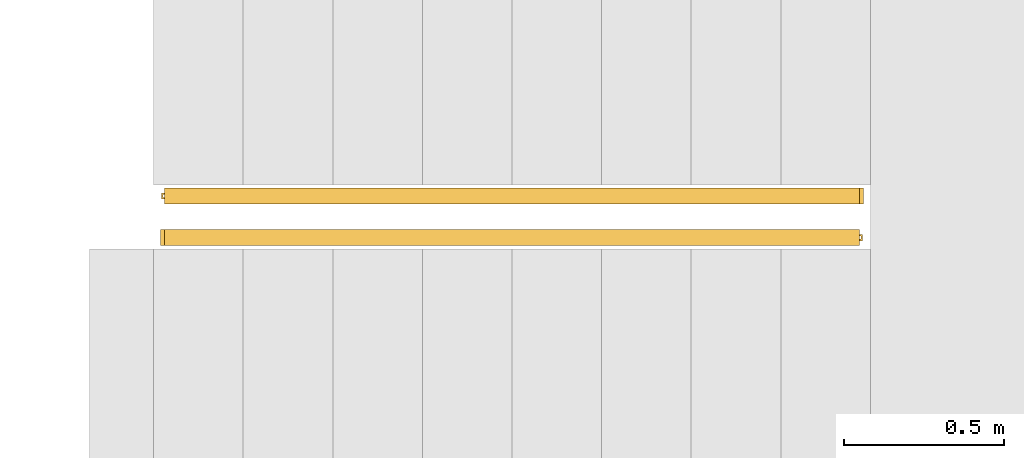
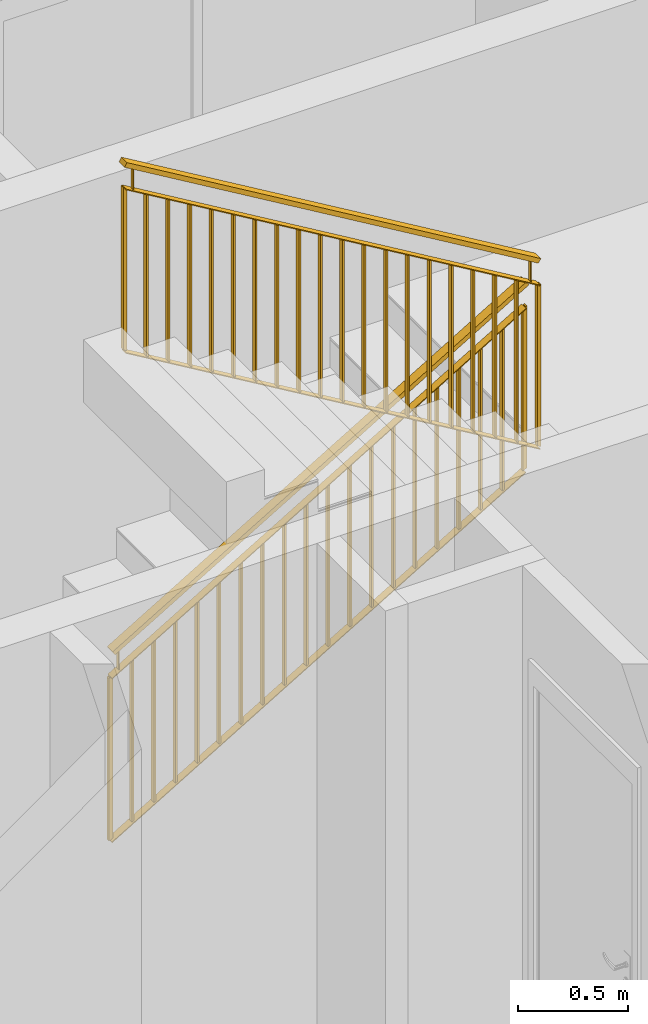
# One storey, part 5 of 64: 2 railings.
"""IFC2X3 building model written with IfcOpenShell, lengths in millimetres."""

import ifcopenshell
import ifcopenshell.guid

model = None  # the IFC model being written
_history = None  # IfcOwnerHistory: only IFC2X3 demands one
_inside = {}  # id of a spatial element -> (the spatial element, [elements in it])
_under = {}  # id of a project, library or spatial element -> (it, [spatial elements below it])
_declared = {}  # id of a project -> (the project, [libraries it declares])
_typed = {}  # id of a type object -> (the type object, [elements of that type])
_made_of = {}  # id of a material, layer set ... -> (it, [elements and type objects made of it])


def new_model(schema):
    """Start an empty IFC model of exactly this schema.

    Asked for "IFC4X3", IfcOpenShell would pick the latest addendum, in which some entities
    have other attributes; the version numbers below select the first issue.
    IFC2X3 requires an IfcOwnerHistory on every rooted entity: one is made here for all.
    """
    global model, _history
    if schema == "IFC4X3":
        model = ifcopenshell.file(schema_version=(4, 3, 0, 0))
    else:
        model = ifcopenshell.file(schema=schema)
    _inside.clear()
    _under.clear()
    _declared.clear()
    _typed.clear()
    _made_of.clear()
    _history = None
    if model.schema == "IFC2X3":
        org = make("IfcOrganization", Name="unknown")
        user = make(
            "IfcPersonAndOrganization",
            ThePerson=make("IfcPerson", FamilyName="unknown"),
            TheOrganization=org,
        )
        app = make(
            "IfcApplication",
            ApplicationDeveloper=org,
            Version="unknown",
            ApplicationFullName="unknown",
            ApplicationIdentifier="unknown",
        )
        _history = make(
            "IfcOwnerHistory",
            OwningUser=user,
            OwningApplication=app,
            ChangeAction="ADDED",
            CreationDate=0,
        )
    return model


def make(cls, **values):
    """One entity of the class cls with the attributes given. An attribute that is None is left unset."""
    return model.create_entity(
        cls, **{name: value for name, value in values.items() if value is not None}
    )


def entity(cls, *values):
    """Any entity or typed value of the class cls, its attributes in the order of the schema. None: left unset."""
    e = model.create_entity(cls)
    for i, value in enumerate(values):
        if value is not None:
            e[i] = value
    return e


def rooted(cls, **values):
    """An entity with a GlobalId (a new one), such as an element, a storey or a relation."""
    return make(cls, GlobalId=ifcopenshell.guid.new(), OwnerHistory=_history, **values)


def si_unit(unit_type, name, prefix=None):
    """IfcSIUnit, for example si_unit("LENGTHUNIT", "METRE", prefix="MILLI")."""
    return make("IfcSIUnit", UnitType=unit_type, Prefix=prefix, Name=name)


def converted_unit(unit_type, name, factor, base, dimensions=None, offset=None):
    """IfcConversionBasedUnit, such as the inch: factor (a typed value) times the base unit."""
    return make(
        "IfcConversionBasedUnit"
        if offset is None
        else "IfcConversionBasedUnitWithOffset",
        ConversionOffset=offset,
        Dimensions=None
        if dimensions is None
        else entity("IfcDimensionalExponents", *dimensions),
        UnitType=unit_type,
        Name=name,
        ConversionFactor=make(
            "IfcMeasureWithUnit", ValueComponent=factor, UnitComponent=base
        ),
    )


def derived_unit(unit_type, elements):
    """IfcDerivedUnit: a product of units, each with its exponent."""
    return make(
        "IfcDerivedUnit",
        Elements=[
            make("IfcDerivedUnitElement", Unit=unit, Exponent=power)
            for unit, power in elements
        ],
        UnitType=unit_type,
    )


def money_unit(currency):
    """IfcMonetaryUnit."""
    return make("IfcMonetaryUnit", Currency=currency)


def assignment(units):
    """IfcUnitAssignment: the units of a project."""
    return None if units is None else make("IfcUnitAssignment", Units=units)


def point(xyz):
    """IfcCartesianPoint."""
    return None if xyz is None else make("IfcCartesianPoint", Coordinates=xyz)


def direction(xyz):
    """IfcDirection."""
    return None if xyz is None else make("IfcDirection", DirectionRatios=xyz)


def frame(location, z_axis=None, x_axis=None):
    """IfcAxis2Placement3D, a coordinate frame: its origin and axes. An axis left out is left unset."""
    return make(
        "IfcAxis2Placement3D",
        Location=point(location),
        Axis=direction(z_axis),
        RefDirection=direction(x_axis),
    )


def origin_with_axes():
    """The frame at (0, 0, 0) with the z axis (0, 0, 1) and the x axis (1, 0, 0) written out."""
    return frame((0.0, 0.0, 0.0), z_axis=(0.0, 0.0, 1.0), x_axis=(1.0, 0.0, 0.0))


def place(relative_to, where):
    """IfcLocalPlacement: puts the frame where relative to a parent placement (None: the world)."""
    return make(
        "IfcLocalPlacement", PlacementRelTo=relative_to, RelativePlacement=where
    )


def context(
    kind, dimensions, precision=None, world=None, true_north=None, identifier=None
):
    """IfcGeometricRepresentationContext, for example the 3D "Model" context."""
    return make(
        "IfcGeometricRepresentationContext",
        ContextIdentifier=identifier,
        ContextType=kind,
        CoordinateSpaceDimension=dimensions,
        Precision=precision,
        WorldCoordinateSystem=world,
        TrueNorth=true_north,
    )


def subcontext(parent, identifier, kind, view, scale=None):
    """IfcGeometricRepresentationSubContext, for example "Body" below "Model"."""
    return make(
        "IfcGeometricRepresentationSubContext",
        ContextIdentifier=identifier,
        ContextType=kind,
        ParentContext=parent,
        TargetScale=scale,
        TargetView=view,
    )


def project(units=None, contexts=None):
    """IfcProject with its units and contexts."""
    return rooted(
        "IfcProject",
        Name="project",
        RepresentationContexts=contexts,
        UnitsInContext=assignment(units),
    )


def spatial(cls, under=None, at=None, **own):
    """A site, building, storey or space (cls), placed at a placement, below another one or the project."""
    s = rooted(cls, ObjectPlacement=at, **own)
    if under is not None:
        _under.setdefault(under.id(), (under, []))[1].append(s)
    return s


def faces_of(points, faces, orient=None, outer=None):
    """IfcFace entities. A face is a list of loops; a loop is a list of indices into points, from 0.

    orient and outer hold one flag for each loop. By default every Orientation is true, the
    first loop of a face is its IfcFaceOuterBound and the others are IfcFaceBound.
    """
    made = []
    for i, loops in enumerate(faces):
        bounds = []
        for j, loop in enumerate(loops):
            is_outer = j == 0 if outer is None else outer[i][j]
            bounds.append(
                make(
                    "IfcFaceOuterBound" if is_outer else "IfcFaceBound",
                    Bound=make("IfcPolyLoop", Polygon=[points[k] for k in loop]),
                    Orientation=True if orient is None else orient[i][j],
                )
            )
        made.append(make("IfcFace", Bounds=bounds))
    return made


def faceted_brep(points, faces, orient=None, outer=None, voids=None):
    """IfcFacetedBrep: a solid bounded by flat faces; with voids (closed shells), ...WithVoids."""
    shared = [point(p) for p in points]
    hull = make("IfcClosedShell", CfsFaces=faces_of(shared, faces, orient, outer))
    if voids is None:
        return make("IfcFacetedBrep", Outer=hull)
    return make(
        "IfcFacetedBrepWithVoids",
        Outer=hull,
        Voids=[
            make(cls, CfsFaces=faces_of(shared, fs, o, b)) for cls, fs, o, b in voids
        ],
    )


def shape(context_of_items, identifier, shape_type, items):
    """IfcShapeRepresentation: the items that make up one representation, for example the "Body"."""
    return make(
        "IfcShapeRepresentation",
        ContextOfItems=context_of_items,
        RepresentationIdentifier=identifier,
        RepresentationType=shape_type,
        Items=items,
    )


def material(Name=None, Category=None):
    """IfcMaterial."""
    return make("IfcMaterial", Name=Name, Category=Category)


def material_list(materials):
    """IfcMaterialList."""
    return make("IfcMaterialList", Materials=materials)


def made_of(thing, what):
    """Note that an element or type object is made of a material, layer set ...; save() writes the relation."""
    if what is not None:
        _made_of.setdefault(what.id(), (what, []))[1].append(thing)
    return thing


def type_object(cls, material=None, **own):
    """A type object (cls), such as IfcWallType, which elements share."""
    return made_of(rooted(cls, **own), material)


def element(
    cls,
    number,
    at=None,
    inside=None,
    cuts=None,
    type_object=None,
    material=None,
    context=None,
    identifier="Body",
    shape_type=None,
    held_by="IfcProductDefinitionShape",
    body=None,
    shapes=None,
    **own,
):
    """One element of the class cls, such as IfcWall. Its Tag is "e" and its number.

    at: its placement. inside: the storey or other place that contains it. cuts: it is an
    opening in that element (IfcRelVoidsElement). A single representation is given by context,
    identifier, shape_type and body (its items); several are given by shapes. held_by: the class
    of the entity that holds the representations. save() writes the other relations.
    """
    e = rooted(cls, Tag="e%d" % number, ObjectPlacement=at, **own)
    if body is not None:
        shapes = [shape(context, identifier, shape_type, body)]
    if shapes is not None:
        e.Representation = make(held_by, Representations=shapes)
    if inside is not None:
        _inside.setdefault(inside.id(), (inside, []))[1].append(e)
    if cuts is not None:
        rooted(
            "IfcRelVoidsElement", RelatingBuildingElement=cuts, RelatedOpeningElement=e
        )
    if type_object is not None:
        _typed.setdefault(type_object.id(), (type_object, []))[1].append(e)
    return made_of(e, material)


def aggregate(whole, parts):
    """IfcRelAggregates: a whole, such as a stair, and the parts it consists of."""
    return rooted("IfcRelAggregates", RelatingObject=whole, RelatedObjects=parts)


def save(model, path):
    """Write the relations noted so far, then the file.

    IfcRelAggregates (storeys below a building ...), IfcRelContainedInSpatialStructure (elements
    in a storey), IfcRelDefinesByType, IfcRelAssociatesMaterial and IfcRelDeclares: one each for
    every whole, place, type object, material and project.
    """
    for whole, parts in _under.values():
        aggregate(whole, parts)
    for where, things in _inside.values():
        rooted(
            "IfcRelContainedInSpatialStructure",
            RelatedElements=things,
            RelatingStructure=where,
        )
    for kind, things in _typed.values():
        rooted("IfcRelDefinesByType", RelatedObjects=things, RelatingType=kind)
    for what, things in _made_of.values():
        rooted("IfcRelAssociatesMaterial", RelatedObjects=things, RelatingMaterial=what)
    for by, libraries in _declared.values():
        rooted("IfcRelDeclares", RelatingContext=by, RelatedDefinitions=libraries)
    model.write(path)


model = new_model("IFC2X3")

# Units and contexts
model_context = context("Model", 3, precision=0.01, world=origin_with_axes(), true_north=direction((0.34421633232, 0.938890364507)))
body_context = subcontext(model_context, "Body", "Model", "MODEL_VIEW")
ifc_project = project(units=[si_unit("LENGTHUNIT", "METRE", prefix="MILLI"), si_unit("AREAUNIT", "SQUARE_METRE"), si_unit("VOLUMEUNIT", "CUBIC_METRE"), converted_unit("PLANEANGLEUNIT", "DEGREE", entity("IfcPlaneAngleMeasure", 0.0174532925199), si_unit("PLANEANGLEUNIT", "RADIAN"), dimensions=[0, 0, 0, 0, 0, 0, 0]), si_unit("SOLIDANGLEUNIT", "STERADIAN"), money_unit("USD"), converted_unit("TIMEUNIT", "Year", entity("IfcTimeMeasure", 31556926.0), si_unit("TIMEUNIT", "SECOND"), dimensions=[0, 0, 1, 0, 0, 0, 0]), si_unit("MASSUNIT", "GRAM", prefix="KILO"), si_unit("THERMODYNAMICTEMPERATUREUNIT", "DEGREE_CELSIUS"), si_unit("LUMINOUSINTENSITYUNIT", "LUMEN"), si_unit("ENERGYUNIT", "JOULE", prefix="MEGA"), derived_unit("THERMALCONDUCTANCEUNIT", [(si_unit("POWERUNIT", "WATT"), 1), (si_unit("LENGTHUNIT", "METRE"), -1), (si_unit("THERMODYNAMICTEMPERATUREUNIT", "KELVIN"), -1)]), derived_unit("SPECIFICHEATCAPACITYUNIT", [(si_unit("ENERGYUNIT", "JOULE"), 1), (si_unit("MASSUNIT", "GRAM", prefix="KILO"), -1), (si_unit("THERMODYNAMICTEMPERATUREUNIT", "KELVIN"), -1)]), derived_unit("MASSDENSITYUNIT", [(si_unit("MASSUNIT", "GRAM", prefix="KILO"), 1), (si_unit("VOLUMEUNIT", "CUBIC_METRE"), -1)])], contexts=[model_context])

# Site, building, storey
site_placement = place(None, origin_with_axes())
site = spatial("IfcSite", under=ifc_project, at=site_placement, Name="USTRONIE MORSKIE", CompositionType="ELEMENT")
building_placement = place(site_placement, origin_with_axes())
building = spatial("IfcBuilding", under=site, at=building_placement, Name="Budynek", CompositionType="ELEMENT")
storey_placement = place(building_placement, frame((0.0, 0.0, 7000.0), z_axis=(0.0, 0.0, 1.0), x_axis=(1.0, 0.0, 0.0)))
storey = spatial("IfcBuildingStorey", under=building, at=storey_placement, Name="PIĘTRO 2", CompositionType="ELEMENT", Elevation=7000.0)

# Railings
ifc_material_1 = material(Name="Stal konstrukcyjna")
ifc_material_2 = material(Name="Stal nierdzewna")
ifc_material_list = material_list([ifc_material_1, ifc_material_1, ifc_material_2, ifc_material_2, ifc_material_2, ifc_material_1, ifc_material_1, ifc_material_1, ifc_material_1, ifc_material_1, ifc_material_1, ifc_material_1, ifc_material_1, ifc_material_1, ifc_material_1, ifc_material_1, ifc_material_1, ifc_material_1, ifc_material_1, ifc_material_1, ifc_material_1, ifc_material_1, ifc_material_1])
railing_type = type_object("IfcRailingType", Name="Typ balustrady", PredefinedType="NOTDEFINED")
railing_1_placement = place(storey_placement, frame((392357.920919, 731401.199036, 187.126021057), z_axis=(0.0, 0.0, 1.0), x_axis=(1.0, 0.0, 0.0)))
element("IfcRailing", 1, at=railing_1_placement, inside=storey, type_object=railing_type, material=ifc_material_list, Name="BL1", PredefinedType="NOTDEFINED", context=body_context, shape_type="Brep", body=[
    faceted_brep([(44.3717153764, -45.0, -144.047619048), (44.3717153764, -25.0, -144.047619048), (44.3717153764, -25.0, 755.952380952), (44.3717153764, -45.0, 755.952380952), (24.3717153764, -45.0, -155.952380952), (24.3717153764, -25.0, -155.952380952), (39.3717153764, -40.0, -147.023809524), (39.3717153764, -30.0, -147.023809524), (29.3717153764, -30.0, -152.976190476), (29.3717153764, -40.0, -152.976190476), (24.3717153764, -25.0, 744.047619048), (24.3717153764, -45.0, 744.047619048), (39.3717153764, -40.0, 752.976190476), (29.3717153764, -40.0, 747.023809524), (29.3717153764, -30.0, 747.023809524), (39.3717153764, -30.0, 752.976190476)], [[[0, 1, 2, 3]], [[0, 4, 5, 1], [6, 7, 8, 9]], [[1, 5, 10, 2]], [[3, 2, 10, 11], [12, 13, 14, 15]], [[4, 0, 3, 11]], [[5, 4, 11, 10]], [[7, 6, 12, 15]], [[8, 7, 15, 14]], [[9, 8, 14, 13]], [[6, 9, 13, 12]]]),
    faceted_brep([(2215.62828462, -45.0, 1148.3670055), (2215.62828462, -25.0, 1148.3670055), (2215.62828462, -25.0, 2048.3670055), (2215.62828462, -45.0, 2048.3670055), (2195.62828462, -45.0, 1136.4622436), (2195.62828462, -25.0, 1136.4622436), (2210.62828462, -40.0, 1145.39081503), (2210.62828462, -30.0, 1145.39081503), (2200.62828462, -30.0, 1139.43843408), (2200.62828462, -40.0, 1139.43843408), (2195.62828462, -25.0, 2036.4622436), (2195.62828462, -45.0, 2036.4622436), (2210.62828462, -40.0, 2045.39081503), (2200.62828462, -40.0, 2039.43843408), (2200.62828462, -30.0, 2039.43843408), (2210.62828462, -30.0, 2045.39081503)], [[[0, 1, 2, 3]], [[0, 4, 5, 1], [6, 7, 8, 9]], [[1, 5, 10, 2]], [[3, 2, 10, 11], [12, 13, 14, 15]], [[4, 0, 3, 11]], [[5, 4, 11, 10]], [[7, 6, 12, 15]], [[8, 7, 15, 14]], [[9, 8, 14, 13]], [[6, 9, 13, 12]]]),
    faceted_brep([(34.3717153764, -59.9999999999, 900.0), (47.1588118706, -59.9999999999, 878.51767789), (2218.41538112, -59.9999999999, 2170.93230244), (2205.62828462, -59.9999999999, 2192.41462455), (34.3717153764, -9.99999999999, 900.0), (47.1588118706, -9.99999999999, 878.51767789), (47.1588118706, -25.0, 878.51767789), (44.6013925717, -25.0, 882.814142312), (44.6013925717, -45.0, 882.814142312), (47.1588118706, -45.0, 878.51767789), (2218.41538112, -45.0, 2170.93230244), (2215.85796182, -45.0, 2175.22876686), (2215.85796182, -25.0, 2175.22876686), (2218.41538112, -25.0, 2170.93230244), (2218.41538112, -9.99999999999, 2170.93230244), (2205.62828462, -9.99999999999, 2192.41462455)], [[[0, 1, 2, 3]], [[0, 4, 5, 6, 7, 8, 9, 1]], [[1, 9, 10, 2]], [[3, 2, 10, 11, 12, 13, 14, 15]], [[4, 0, 3, 15]], [[5, 4, 15, 14]], [[6, 5, 14, 13]], [[7, 6, 13, 12]], [[8, 7, 12, 11]], [[9, 8, 11, 10]]]),
    faceted_brep([(47.1588118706, -45.0, 878.51767789), (47.1588118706, -25.0, 878.51767789), (2218.41538112, -25.0, 2170.93230244), (2218.41538112, -45.0, 2170.93230244), (44.6013925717, -45.0, 882.814142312), (44.6013925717, -25.0, 882.814142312), (2215.85796182, -25.0, 2175.22876686), (2215.85796182, -45.0, 2175.22876686)], [[[0, 1, 2, 3]], [[0, 4, 5, 1]], [[1, 5, 6, 2]], [[3, 2, 6, 7]], [[4, 0, 3, 7]], [[5, 4, 7, 6]]]),
    faceted_brep([(79.8363595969, -45.0, 776.480503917), (79.8363595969, -25.0, 776.480503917), (79.8363595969, -25.0, 897.968599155), (79.8363595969, -45.0, 897.968599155), (74.8363595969, -45.0, 776.480503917), (74.8363595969, -25.0, 776.480503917), (74.8363595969, -25.0, 896.480503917), (77.3363595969, -25.0, 897.968599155), (77.3363595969, -45.0, 897.968599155), (74.8363595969, -45.0, 896.480503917)], [[[0, 1, 2, 3]], [[0, 4, 5, 1]], [[1, 5, 6, 7, 2]], [[3, 2, 7, 8]], [[4, 0, 3, 8, 9]], [[5, 4, 9, 6]], [[7, 6, 9, 8]]]),
    faceted_brep([(2165.1636404, -45.0, 2017.74674249), (2165.1636404, -25.0, 2017.74674249), (2165.1636404, -25.0, 2139.23483773), (2165.1636404, -45.0, 2139.23483773), (2160.1636404, -45.0, 2017.74674249), (2160.1636404, -25.0, 2017.74674249), (2160.1636404, -25.0, 2137.74674249), (2162.6636404, -25.0, 2139.23483773), (2162.6636404, -45.0, 2139.23483773), (2160.1636404, -45.0, 2137.74674249)], [[[0, 1, 2, 3]], [[0, 4, 5, 1]], [[1, 5, 6, 7, 2]], [[3, 2, 7, 8]], [[4, 0, 3, 8, 9]], [[5, 4, 9, 6]], [[7, 6, 9, 8]]]),
    faceted_brep([(34.3717153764, -54.9999999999, 750.0), (36.9291346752, -54.9999999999, 745.703535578), (2208.18570392, -54.9999999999, 2038.11816013), (2205.62828462, -54.9999999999, 2042.41462455), (34.3717153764, -15.0, 750.0), (36.9291346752, -15.0, 745.703535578), (2208.18570392, -15.0, 2038.11816013), (2205.62828462, -15.0, 2042.41462455)], [[[0, 1, 2, 3]], [[0, 4, 5, 1]], [[1, 5, 6, 2]], [[3, 2, 6, 7]], [[4, 0, 3, 7]], [[5, 4, 7, 6]]]),
    faceted_brep([(33.093005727, -54.9999999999, -157.851767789), (35.6504250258, -54.9999999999, -162.148232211), (2206.90699427, -54.9999999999, 1130.26639234), (2204.34957497, -54.9999999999, 1134.56285676), (33.093005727, -15.0, -157.851767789), (35.6504250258, -15.0, -162.148232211), (2206.90699427, -15.0, 1130.26639234), (2204.34957497, -15.0, 1134.56285676)], [[[0, 1, 2, 3]], [[0, 4, 5, 1]], [[1, 5, 6, 2]], [[3, 2, 6, 7]], [[4, 0, 3, 7]], [[5, 4, 7, 6]]]),
    faceted_brep([(153.648376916, -47.5, -84.001987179), (153.648376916, -22.4999999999, -84.001987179), (153.648376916, -22.4999999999, 815.998012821), (153.648376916, -47.5, 815.998012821), (143.648376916, -47.5, -89.9543681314), (143.648376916, -22.4999999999, -89.9543681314), (143.648376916, -22.4999999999, 810.045631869), (143.648376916, -47.5, 810.045631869)], [[[0, 1, 2, 3]], [[0, 4, 5, 1]], [[1, 5, 6, 2]], [[3, 2, 6, 7]], [[4, 0, 3, 7]], [[5, 4, 7, 6]]]),
    faceted_brep([(267.925038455, -47.5, -15.9801648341), (267.925038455, -22.4999999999, -15.9801648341), (267.925038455, -22.4999999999, 884.019835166), (267.925038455, -47.5, 884.019835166), (257.925038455, -47.5, -21.9325457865), (257.925038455, -22.4999999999, -21.9325457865), (257.925038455, -22.4999999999, 878.067454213), (257.925038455, -47.5, 878.067454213)], [[[0, 1, 2, 3]], [[0, 4, 5, 1]], [[1, 5, 6, 2]], [[3, 2, 6, 7]], [[4, 0, 3, 7]], [[5, 4, 7, 6]]]),
    faceted_brep([(382.201699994, -47.5, 52.0416575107), (382.201699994, -22.4999999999, 52.0416575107), (382.201699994, -22.4999999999, 952.041657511), (382.201699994, -47.5, 952.041657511), (372.201699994, -47.5, 46.0892765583), (372.201699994, -22.4999999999, 46.0892765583), (372.201699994, -22.4999999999, 946.089276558), (372.201699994, -47.5, 946.089276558)], [[[0, 1, 2, 3]], [[0, 4, 5, 1]], [[1, 5, 6, 2]], [[3, 2, 6, 7]], [[4, 0, 3, 7]], [[5, 4, 7, 6]]]),
    faceted_brep([(496.478361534, -47.5, 120.063479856), (496.478361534, -22.4999999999, 120.063479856), (496.478361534, -22.4999999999, 1020.06347986), (496.478361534, -47.5, 1020.06347986), (486.478361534, -47.5, 114.111098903), (486.478361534, -22.4999999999, 114.111098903), (486.478361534, -22.4999999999, 1014.1110989), (486.478361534, -47.5, 1014.1110989)], [[[0, 1, 2, 3]], [[0, 4, 5, 1]], [[1, 5, 6, 2]], [[3, 2, 6, 7]], [[4, 0, 3, 7]], [[5, 4, 7, 6]]]),
    faceted_brep([(610.755023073, -47.5, 188.0853022), (610.755023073, -22.4999999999, 188.0853022), (610.755023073, -22.4999999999, 1088.0853022), (610.755023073, -47.5, 1088.0853022), (600.755023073, -47.5, 182.132921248), (600.755023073, -22.4999999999, 182.132921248), (600.755023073, -22.4999999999, 1082.13292125), (600.755023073, -47.5, 1082.13292125)], [[[0, 1, 2, 3]], [[0, 4, 5, 1]], [[1, 5, 6, 2]], [[3, 2, 6, 7]], [[4, 0, 3, 7]], [[5, 4, 7, 6]]]),
    faceted_brep([(725.031684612, -47.5, 256.107124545), (725.031684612, -22.4999999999, 256.107124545), (725.031684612, -22.4999999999, 1156.10712455), (725.031684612, -47.5, 1156.10712455), (715.031684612, -47.5, 250.154743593), (715.031684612, -22.4999999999, 250.154743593), (715.031684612, -22.4999999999, 1150.15474359), (715.031684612, -47.5, 1150.15474359)], [[[0, 1, 2, 3]], [[0, 4, 5, 1]], [[1, 5, 6, 2]], [[3, 2, 6, 7]], [[4, 0, 3, 7]], [[5, 4, 7, 6]]]),
    faceted_brep([(839.308346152, -47.5, 324.12894689), (839.308346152, -22.4999999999, 324.12894689), (839.308346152, -22.4999999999, 1224.12894689), (839.308346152, -47.5, 1224.12894689), (829.308346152, -47.5, 318.176565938), (829.308346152, -22.4999999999, 318.176565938), (829.308346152, -22.4999999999, 1218.17656594), (829.308346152, -47.5, 1218.17656594)], [[[0, 1, 2, 3]], [[0, 4, 5, 1]], [[1, 5, 6, 2]], [[3, 2, 6, 7]], [[4, 0, 3, 7]], [[5, 4, 7, 6]]]),
    faceted_brep([(953.585007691, -47.5, 392.150769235), (953.585007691, -22.4999999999, 392.150769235), (953.585007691, -22.4999999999, 1292.15076923), (953.585007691, -47.5, 1292.15076923), (943.585007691, -47.5, 386.198388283), (943.585007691, -22.4999999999, 386.198388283), (943.585007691, -22.4999999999, 1286.19838828), (943.585007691, -47.5, 1286.19838828)], [[[0, 1, 2, 3]], [[0, 4, 5, 1]], [[1, 5, 6, 2]], [[3, 2, 6, 7]], [[4, 0, 3, 7]], [[5, 4, 7, 6]]]),
    faceted_brep([(1067.86166923, -47.5, 460.17259158), (1067.86166923, -22.4999999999, 460.17259158), (1067.86166923, -22.4999999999, 1360.17259158), (1067.86166923, -47.5, 1360.17259158), (1057.86166923, -47.5, 454.220210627), (1057.86166923, -22.4999999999, 454.220210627), (1057.86166923, -22.4999999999, 1354.22021063), (1057.86166923, -47.5, 1354.22021063)], [[[0, 1, 2, 3]], [[0, 4, 5, 1]], [[1, 5, 6, 2]], [[3, 2, 6, 7]], [[4, 0, 3, 7]], [[5, 4, 7, 6]]]),
    faceted_brep([(1182.13833077, -47.5, 528.194413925), (1182.13833077, -22.4999999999, 528.194413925), (1182.13833077, -22.4999999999, 1428.19441392), (1182.13833077, -47.5, 1428.19441392), (1172.13833077, -47.5, 522.242032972), (1172.13833077, -22.4999999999, 522.242032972), (1172.13833077, -22.4999999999, 1422.24203297), (1172.13833077, -47.5, 1422.24203297)], [[[0, 1, 2, 3]], [[0, 4, 5, 1]], [[1, 5, 6, 2]], [[3, 2, 6, 7]], [[4, 0, 3, 7]], [[5, 4, 7, 6]]]),
    faceted_brep([(1296.41499231, -47.5, 596.216236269), (1296.41499231, -22.4999999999, 596.216236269), (1296.41499231, -22.4999999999, 1496.21623627), (1296.41499231, -47.5, 1496.21623627), (1286.41499231, -47.5, 590.263855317), (1286.41499231, -22.4999999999, 590.263855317), (1286.41499231, -22.4999999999, 1490.26385532), (1286.41499231, -47.5, 1490.26385532)], [[[0, 1, 2, 3]], [[0, 4, 5, 1]], [[1, 5, 6, 2]], [[3, 2, 6, 7]], [[4, 0, 3, 7]], [[5, 4, 7, 6]]]),
    faceted_brep([(1410.69165385, -47.5, 664.238058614), (1410.69165385, -22.4999999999, 664.238058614), (1410.69165385, -22.4999999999, 1564.23805861), (1410.69165385, -47.5, 1564.23805861), (1400.69165385, -47.5, 658.285677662), (1400.69165385, -22.4999999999, 658.285677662), (1400.69165385, -22.4999999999, 1558.28567766), (1400.69165385, -47.5, 1558.28567766)], [[[0, 1, 2, 3]], [[0, 4, 5, 1]], [[1, 5, 6, 2]], [[3, 2, 6, 7]], [[4, 0, 3, 7]], [[5, 4, 7, 6]]]),
    faceted_brep([(1524.96831539, -47.5, 732.259880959), (1524.96831539, -22.4999999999, 732.259880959), (1524.96831539, -22.4999999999, 1632.25988096), (1524.96831539, -47.5, 1632.25988096), (1514.96831539, -47.5, 726.307500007), (1514.96831539, -22.4999999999, 726.307500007), (1514.96831539, -22.4999999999, 1626.30750001), (1514.96831539, -47.5, 1626.30750001)], [[[0, 1, 2, 3]], [[0, 4, 5, 1]], [[1, 5, 6, 2]], [[3, 2, 6, 7]], [[4, 0, 3, 7]], [[5, 4, 7, 6]]]),
    faceted_brep([(1639.24497693, -47.5, 800.281703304), (1639.24497693, -22.4999999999, 800.281703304), (1639.24497693, -22.4999999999, 1700.2817033), (1639.24497693, -47.5, 1700.2817033), (1629.24497693, -47.5, 794.329322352), (1629.24497693, -22.4999999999, 794.329322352), (1629.24497693, -22.4999999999, 1694.32932235), (1629.24497693, -47.5, 1694.32932235)], [[[0, 1, 2, 3]], [[0, 4, 5, 1]], [[1, 5, 6, 2]], [[3, 2, 6, 7]], [[4, 0, 3, 7]], [[5, 4, 7, 6]]]),
    faceted_brep([(1753.52163847, -47.5, 868.303525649), (1753.52163847, -22.4999999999, 868.303525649), (1753.52163847, -22.4999999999, 1768.30352565), (1753.52163847, -47.5, 1768.30352565), (1743.52163847, -47.5, 862.351144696), (1743.52163847, -22.4999999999, 862.351144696), (1743.52163847, -22.4999999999, 1762.3511447), (1743.52163847, -47.5, 1762.3511447)], [[[0, 1, 2, 3]], [[0, 4, 5, 1]], [[1, 5, 6, 2]], [[3, 2, 6, 7]], [[4, 0, 3, 7]], [[5, 4, 7, 6]]]),
    faceted_brep([(1867.79830001, -47.5, 936.325347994), (1867.79830001, -22.4999999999, 936.325347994), (1867.79830001, -22.4999999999, 1836.32534799), (1867.79830001, -47.5, 1836.32534799), (1857.79830001, -47.5, 930.372967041), (1857.79830001, -22.4999999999, 930.372967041), (1857.79830001, -22.4999999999, 1830.37296704), (1857.79830001, -47.5, 1830.37296704)], [[[0, 1, 2, 3]], [[0, 4, 5, 1]], [[1, 5, 6, 2]], [[3, 2, 6, 7]], [[4, 0, 3, 7]], [[5, 4, 7, 6]]]),
    faceted_brep([(1982.07496154, -47.5, 1004.34717034), (1982.07496154, -22.4999999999, 1004.34717034), (1982.07496154, -22.4999999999, 1904.34717034), (1982.07496154, -47.5, 1904.34717034), (1972.07496154, -47.5, 998.394789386), (1972.07496154, -22.4999999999, 998.394789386), (1972.07496154, -22.4999999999, 1898.39478939), (1972.07496154, -47.5, 1898.39478939)], [[[0, 1, 2, 3]], [[0, 4, 5, 1]], [[1, 5, 6, 2]], [[3, 2, 6, 7]], [[4, 0, 3, 7]], [[5, 4, 7, 6]]]),
    faceted_brep([(2096.35162308, -47.5, 1072.36899268), (2096.35162308, -22.4999999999, 1072.36899268), (2096.35162308, -22.4999999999, 1972.36899268), (2096.35162308, -47.5, 1972.36899268), (2086.35162308, -47.5, 1066.41661173), (2086.35162308, -22.4999999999, 1066.41661173), (2086.35162308, -22.4999999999, 1966.41661173), (2086.35162308, -47.5, 1966.41661173)], [[[0, 1, 2, 3]], [[0, 4, 5, 1]], [[1, 5, 6, 2]], [[3, 2, 6, 7]], [[4, 0, 3, 7]], [[5, 4, 7, 6]]]),
])
railing_2_placement = place(storey_placement, frame((394597.920919, 731201.199036, 1687.12602106), z_axis=(0.0, 0.0, 1.0), x_axis=(1.0, 0.0, 0.0)))
element("IfcRailing", 2, at=railing_2_placement, inside=storey, type_object=railing_type, material=ifc_material_list, Name="BL1", PredefinedType="NOTDEFINED", context=body_context, shape_type="Brep", body=[
    faceted_brep([(-44.3717153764, 45.0, -144.047619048), (-44.3717153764, 25.0, -144.047619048), (-44.3717153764, 25.0, 755.952380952), (-44.3717153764, 45.0, 755.952380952), (-24.3717153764, 45.0, -155.952380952), (-24.3717153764, 25.0, -155.952380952), (-39.3717153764, 40.0, -147.023809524), (-39.3717153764, 30.0, -147.023809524), (-29.3717153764, 30.0, -152.976190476), (-29.3717153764, 40.0, -152.976190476), (-24.3717153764, 25.0, 744.047619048), (-24.3717153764, 45.0, 744.047619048), (-39.3717153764, 40.0, 752.976190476), (-29.3717153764, 40.0, 747.023809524), (-29.3717153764, 30.0, 747.023809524), (-39.3717153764, 30.0, 752.976190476)], [[[0, 1, 2, 3]], [[0, 4, 5, 1], [6, 7, 8, 9]], [[1, 5, 10, 2]], [[3, 2, 10, 11], [12, 13, 14, 15]], [[4, 0, 3, 11]], [[5, 4, 11, 10]], [[7, 6, 12, 15]], [[8, 7, 15, 14]], [[9, 8, 14, 13]], [[6, 9, 13, 12]]]),
    faceted_brep([(-2215.62828462, 45.0, 1148.3670055), (-2215.62828462, 25.0, 1148.3670055), (-2215.62828462, 25.0, 2048.3670055), (-2215.62828462, 45.0, 2048.3670055), (-2195.62828462, 45.0, 1136.4622436), (-2195.62828462, 25.0, 1136.4622436), (-2210.62828462, 40.0, 1145.39081503), (-2210.62828462, 30.0, 1145.39081503), (-2200.62828462, 30.0, 1139.43843408), (-2200.62828462, 40.0, 1139.43843408), (-2195.62828462, 25.0, 2036.4622436), (-2195.62828462, 45.0, 2036.4622436), (-2210.62828462, 40.0, 2045.39081503), (-2200.62828462, 40.0, 2039.43843408), (-2200.62828462, 30.0, 2039.43843408), (-2210.62828462, 30.0, 2045.39081503)], [[[0, 1, 2, 3]], [[0, 4, 5, 1], [6, 7, 8, 9]], [[1, 5, 10, 2]], [[3, 2, 10, 11], [12, 13, 14, 15]], [[4, 0, 3, 11]], [[5, 4, 11, 10]], [[7, 6, 12, 15]], [[8, 7, 15, 14]], [[9, 8, 14, 13]], [[6, 9, 13, 12]]]),
    faceted_brep([(-34.3717153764, 59.9999999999, 900.0), (-47.1588118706, 59.9999999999, 878.51767789), (-2218.41538112, 59.9999999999, 2170.93230244), (-2205.62828462, 59.9999999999, 2192.41462455), (-34.3717153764, 9.99999999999, 900.0), (-47.1588118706, 9.99999999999, 878.51767789), (-47.1588118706, 25.0, 878.51767789), (-44.6013925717, 25.0, 882.814142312), (-44.6013925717, 45.0, 882.814142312), (-47.1588118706, 45.0, 878.51767789), (-2218.41538112, 45.0, 2170.93230244), (-2215.85796182, 45.0, 2175.22876686), (-2215.85796182, 25.0, 2175.22876686), (-2218.41538112, 25.0, 2170.93230244), (-2218.41538112, 9.99999999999, 2170.93230244), (-2205.62828462, 9.99999999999, 2192.41462455)], [[[0, 1, 2, 3]], [[0, 4, 5, 6, 7, 8, 9, 1]], [[1, 9, 10, 2]], [[3, 2, 10, 11, 12, 13, 14, 15]], [[4, 0, 3, 15]], [[5, 4, 15, 14]], [[6, 5, 14, 13]], [[7, 6, 13, 12]], [[8, 7, 12, 11]], [[9, 8, 11, 10]]]),
    faceted_brep([(-47.1588118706, 45.0, 878.51767789), (-47.1588118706, 25.0, 878.51767789), (-2218.41538112, 25.0, 2170.93230244), (-2218.41538112, 45.0, 2170.93230244), (-44.6013925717, 45.0, 882.814142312), (-44.6013925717, 25.0, 882.814142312), (-2215.85796182, 25.0, 2175.22876686), (-2215.85796182, 45.0, 2175.22876686)], [[[0, 1, 2, 3]], [[0, 4, 5, 1]], [[1, 5, 6, 2]], [[3, 2, 6, 7]], [[4, 0, 3, 7]], [[5, 4, 7, 6]]]),
    faceted_brep([(-79.8363595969, 45.0, 776.480503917), (-79.8363595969, 25.0, 776.480503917), (-79.8363595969, 25.0, 897.968599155), (-79.8363595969, 45.0, 897.968599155), (-74.8363595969, 45.0, 776.480503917), (-74.8363595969, 25.0, 776.480503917), (-74.8363595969, 25.0, 896.480503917), (-77.3363595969, 25.0, 897.968599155), (-77.3363595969, 45.0, 897.968599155), (-74.8363595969, 45.0, 896.480503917)], [[[0, 1, 2, 3]], [[0, 4, 5, 1]], [[1, 5, 6, 7, 2]], [[3, 2, 7, 8]], [[4, 0, 3, 8, 9]], [[5, 4, 9, 6]], [[7, 6, 9, 8]]]),
    faceted_brep([(-2165.1636404, 45.0, 2017.74674249), (-2165.1636404, 25.0, 2017.74674249), (-2165.1636404, 25.0, 2139.23483773), (-2165.1636404, 45.0, 2139.23483773), (-2160.1636404, 45.0, 2017.74674249), (-2160.1636404, 25.0, 2017.74674249), (-2160.1636404, 25.0, 2137.74674249), (-2162.6636404, 25.0, 2139.23483773), (-2162.6636404, 45.0, 2139.23483773), (-2160.1636404, 45.0, 2137.74674249)], [[[0, 1, 2, 3]], [[0, 4, 5, 1]], [[1, 5, 6, 7, 2]], [[3, 2, 7, 8]], [[4, 0, 3, 8, 9]], [[5, 4, 9, 6]], [[7, 6, 9, 8]]]),
    faceted_brep([(-34.3717153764, 54.9999999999, 750.0), (-36.9291346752, 54.9999999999, 745.703535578), (-2208.18570392, 54.9999999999, 2038.11816013), (-2205.62828462, 54.9999999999, 2042.41462455), (-34.3717153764, 15.0, 750.0), (-36.9291346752, 15.0, 745.703535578), (-2208.18570392, 15.0, 2038.11816013), (-2205.62828462, 15.0, 2042.41462455)], [[[0, 1, 2, 3]], [[0, 4, 5, 1]], [[1, 5, 6, 2]], [[3, 2, 6, 7]], [[4, 0, 3, 7]], [[5, 4, 7, 6]]]),
    faceted_brep([(-33.093005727, 54.9999999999, -157.851767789), (-35.6504250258, 54.9999999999, -162.148232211), (-2206.90699427, 54.9999999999, 1130.26639234), (-2204.34957497, 54.9999999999, 1134.56285676), (-33.093005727, 15.0, -157.851767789), (-35.6504250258, 15.0, -162.148232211), (-2206.90699427, 15.0, 1130.26639234), (-2204.34957497, 15.0, 1134.56285676)], [[[0, 1, 2, 3]], [[0, 4, 5, 1]], [[1, 5, 6, 2]], [[3, 2, 6, 7]], [[4, 0, 3, 7]], [[5, 4, 7, 6]]]),
    faceted_brep([(-153.648376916, 47.5, -84.001987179), (-153.648376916, 22.4999999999, -84.001987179), (-153.648376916, 22.4999999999, 815.998012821), (-153.648376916, 47.5, 815.998012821), (-143.648376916, 47.5, -89.9543681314), (-143.648376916, 22.4999999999, -89.9543681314), (-143.648376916, 22.4999999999, 810.045631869), (-143.648376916, 47.5, 810.045631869)], [[[0, 1, 2, 3]], [[0, 4, 5, 1]], [[1, 5, 6, 2]], [[3, 2, 6, 7]], [[4, 0, 3, 7]], [[5, 4, 7, 6]]]),
    faceted_brep([(-267.925038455, 47.5, -15.9801648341), (-267.925038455, 22.4999999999, -15.9801648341), (-267.925038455, 22.4999999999, 884.019835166), (-267.925038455, 47.5, 884.019835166), (-257.925038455, 47.5, -21.9325457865), (-257.925038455, 22.4999999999, -21.9325457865), (-257.925038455, 22.4999999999, 878.067454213), (-257.925038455, 47.5, 878.067454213)], [[[0, 1, 2, 3]], [[0, 4, 5, 1]], [[1, 5, 6, 2]], [[3, 2, 6, 7]], [[4, 0, 3, 7]], [[5, 4, 7, 6]]]),
    faceted_brep([(-382.201699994, 47.5, 52.0416575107), (-382.201699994, 22.4999999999, 52.0416575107), (-382.201699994, 22.4999999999, 952.041657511), (-382.201699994, 47.5, 952.041657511), (-372.201699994, 47.5, 46.0892765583), (-372.201699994, 22.4999999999, 46.0892765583), (-372.201699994, 22.4999999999, 946.089276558), (-372.201699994, 47.5, 946.089276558)], [[[0, 1, 2, 3]], [[0, 4, 5, 1]], [[1, 5, 6, 2]], [[3, 2, 6, 7]], [[4, 0, 3, 7]], [[5, 4, 7, 6]]]),
    faceted_brep([(-496.478361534, 47.5, 120.063479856), (-496.478361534, 22.4999999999, 120.063479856), (-496.478361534, 22.4999999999, 1020.06347986), (-496.478361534, 47.5, 1020.06347986), (-486.478361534, 47.5, 114.111098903), (-486.478361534, 22.4999999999, 114.111098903), (-486.478361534, 22.4999999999, 1014.1110989), (-486.478361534, 47.5, 1014.1110989)], [[[0, 1, 2, 3]], [[0, 4, 5, 1]], [[1, 5, 6, 2]], [[3, 2, 6, 7]], [[4, 0, 3, 7]], [[5, 4, 7, 6]]]),
    faceted_brep([(-610.755023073, 47.5, 188.0853022), (-610.755023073, 22.4999999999, 188.0853022), (-610.755023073, 22.4999999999, 1088.0853022), (-610.755023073, 47.5, 1088.0853022), (-600.755023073, 47.5, 182.132921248), (-600.755023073, 22.4999999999, 182.132921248), (-600.755023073, 22.4999999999, 1082.13292125), (-600.755023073, 47.5, 1082.13292125)], [[[0, 1, 2, 3]], [[0, 4, 5, 1]], [[1, 5, 6, 2]], [[3, 2, 6, 7]], [[4, 0, 3, 7]], [[5, 4, 7, 6]]]),
    faceted_brep([(-725.031684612, 47.5, 256.107124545), (-725.031684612, 22.4999999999, 256.107124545), (-725.031684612, 22.4999999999, 1156.10712455), (-725.031684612, 47.5, 1156.10712455), (-715.031684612, 47.5, 250.154743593), (-715.031684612, 22.4999999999, 250.154743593), (-715.031684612, 22.4999999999, 1150.15474359), (-715.031684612, 47.5, 1150.15474359)], [[[0, 1, 2, 3]], [[0, 4, 5, 1]], [[1, 5, 6, 2]], [[3, 2, 6, 7]], [[4, 0, 3, 7]], [[5, 4, 7, 6]]]),
    faceted_brep([(-839.308346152, 47.5, 324.12894689), (-839.308346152, 22.4999999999, 324.12894689), (-839.308346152, 22.4999999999, 1224.12894689), (-839.308346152, 47.5, 1224.12894689), (-829.308346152, 47.5, 318.176565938), (-829.308346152, 22.4999999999, 318.176565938), (-829.308346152, 22.4999999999, 1218.17656594), (-829.308346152, 47.5, 1218.17656594)], [[[0, 1, 2, 3]], [[0, 4, 5, 1]], [[1, 5, 6, 2]], [[3, 2, 6, 7]], [[4, 0, 3, 7]], [[5, 4, 7, 6]]]),
    faceted_brep([(-953.585007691, 47.5, 392.150769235), (-953.585007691, 22.4999999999, 392.150769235), (-953.585007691, 22.4999999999, 1292.15076923), (-953.585007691, 47.5, 1292.15076923), (-943.585007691, 47.5, 386.198388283), (-943.585007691, 22.4999999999, 386.198388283), (-943.585007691, 22.4999999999, 1286.19838828), (-943.585007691, 47.5, 1286.19838828)], [[[0, 1, 2, 3]], [[0, 4, 5, 1]], [[1, 5, 6, 2]], [[3, 2, 6, 7]], [[4, 0, 3, 7]], [[5, 4, 7, 6]]]),
    faceted_brep([(-1067.86166923, 47.5, 460.17259158), (-1067.86166923, 22.4999999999, 460.17259158), (-1067.86166923, 22.4999999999, 1360.17259158), (-1067.86166923, 47.5, 1360.17259158), (-1057.86166923, 47.5, 454.220210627), (-1057.86166923, 22.4999999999, 454.220210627), (-1057.86166923, 22.4999999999, 1354.22021063), (-1057.86166923, 47.5, 1354.22021063)], [[[0, 1, 2, 3]], [[0, 4, 5, 1]], [[1, 5, 6, 2]], [[3, 2, 6, 7]], [[4, 0, 3, 7]], [[5, 4, 7, 6]]]),
    faceted_brep([(-1182.13833077, 47.5, 528.194413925), (-1182.13833077, 22.4999999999, 528.194413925), (-1182.13833077, 22.4999999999, 1428.19441392), (-1182.13833077, 47.5, 1428.19441392), (-1172.13833077, 47.5, 522.242032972), (-1172.13833077, 22.4999999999, 522.242032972), (-1172.13833077, 22.4999999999, 1422.24203297), (-1172.13833077, 47.5, 1422.24203297)], [[[0, 1, 2, 3]], [[0, 4, 5, 1]], [[1, 5, 6, 2]], [[3, 2, 6, 7]], [[4, 0, 3, 7]], [[5, 4, 7, 6]]]),
    faceted_brep([(-1296.41499231, 47.5, 596.216236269), (-1296.41499231, 22.4999999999, 596.216236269), (-1296.41499231, 22.4999999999, 1496.21623627), (-1296.41499231, 47.5, 1496.21623627), (-1286.41499231, 47.5, 590.263855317), (-1286.41499231, 22.4999999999, 590.263855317), (-1286.41499231, 22.4999999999, 1490.26385532), (-1286.41499231, 47.5, 1490.26385532)], [[[0, 1, 2, 3]], [[0, 4, 5, 1]], [[1, 5, 6, 2]], [[3, 2, 6, 7]], [[4, 0, 3, 7]], [[5, 4, 7, 6]]]),
    faceted_brep([(-1410.69165385, 47.5, 664.238058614), (-1410.69165385, 22.4999999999, 664.238058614), (-1410.69165385, 22.4999999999, 1564.23805861), (-1410.69165385, 47.5, 1564.23805861), (-1400.69165385, 47.5, 658.285677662), (-1400.69165385, 22.4999999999, 658.285677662), (-1400.69165385, 22.4999999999, 1558.28567766), (-1400.69165385, 47.5, 1558.28567766)], [[[0, 1, 2, 3]], [[0, 4, 5, 1]], [[1, 5, 6, 2]], [[3, 2, 6, 7]], [[4, 0, 3, 7]], [[5, 4, 7, 6]]]),
    faceted_brep([(-1524.96831539, 47.5, 732.259880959), (-1524.96831539, 22.4999999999, 732.259880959), (-1524.96831539, 22.4999999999, 1632.25988096), (-1524.96831539, 47.5, 1632.25988096), (-1514.96831539, 47.5, 726.307500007), (-1514.96831539, 22.4999999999, 726.307500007), (-1514.96831539, 22.4999999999, 1626.30750001), (-1514.96831539, 47.5, 1626.30750001)], [[[0, 1, 2, 3]], [[0, 4, 5, 1]], [[1, 5, 6, 2]], [[3, 2, 6, 7]], [[4, 0, 3, 7]], [[5, 4, 7, 6]]]),
    faceted_brep([(-1639.24497693, 47.5, 800.281703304), (-1639.24497693, 22.4999999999, 800.281703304), (-1639.24497693, 22.4999999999, 1700.2817033), (-1639.24497693, 47.5, 1700.2817033), (-1629.24497693, 47.5, 794.329322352), (-1629.24497693, 22.4999999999, 794.329322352), (-1629.24497693, 22.4999999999, 1694.32932235), (-1629.24497693, 47.5, 1694.32932235)], [[[0, 1, 2, 3]], [[0, 4, 5, 1]], [[1, 5, 6, 2]], [[3, 2, 6, 7]], [[4, 0, 3, 7]], [[5, 4, 7, 6]]]),
    faceted_brep([(-1753.52163847, 47.5, 868.303525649), (-1753.52163847, 22.4999999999, 868.303525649), (-1753.52163847, 22.4999999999, 1768.30352565), (-1753.52163847, 47.5, 1768.30352565), (-1743.52163847, 47.5, 862.351144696), (-1743.52163847, 22.4999999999, 862.351144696), (-1743.52163847, 22.4999999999, 1762.3511447), (-1743.52163847, 47.5, 1762.3511447)], [[[0, 1, 2, 3]], [[0, 4, 5, 1]], [[1, 5, 6, 2]], [[3, 2, 6, 7]], [[4, 0, 3, 7]], [[5, 4, 7, 6]]]),
    faceted_brep([(-1867.79830001, 47.5, 936.325347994), (-1867.79830001, 22.4999999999, 936.325347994), (-1867.79830001, 22.4999999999, 1836.32534799), (-1867.79830001, 47.5, 1836.32534799), (-1857.79830001, 47.5, 930.372967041), (-1857.79830001, 22.4999999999, 930.372967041), (-1857.79830001, 22.4999999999, 1830.37296704), (-1857.79830001, 47.5, 1830.37296704)], [[[0, 1, 2, 3]], [[0, 4, 5, 1]], [[1, 5, 6, 2]], [[3, 2, 6, 7]], [[4, 0, 3, 7]], [[5, 4, 7, 6]]]),
    faceted_brep([(-1982.07496154, 47.5, 1004.34717034), (-1982.07496154, 22.4999999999, 1004.34717034), (-1982.07496154, 22.4999999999, 1904.34717034), (-1982.07496154, 47.5, 1904.34717034), (-1972.07496154, 47.5, 998.394789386), (-1972.07496154, 22.4999999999, 998.394789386), (-1972.07496154, 22.4999999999, 1898.39478939), (-1972.07496154, 47.5, 1898.39478939)], [[[0, 1, 2, 3]], [[0, 4, 5, 1]], [[1, 5, 6, 2]], [[3, 2, 6, 7]], [[4, 0, 3, 7]], [[5, 4, 7, 6]]]),
    faceted_brep([(-2096.35162308, 47.5, 1072.36899268), (-2096.35162308, 22.4999999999, 1072.36899268), (-2096.35162308, 22.4999999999, 1972.36899268), (-2096.35162308, 47.5, 1972.36899268), (-2086.35162308, 47.5, 1066.41661173), (-2086.35162308, 22.4999999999, 1066.41661173), (-2086.35162308, 22.4999999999, 1966.41661173), (-2086.35162308, 47.5, 1966.41661173)], [[[0, 1, 2, 3]], [[0, 4, 5, 1]], [[1, 5, 6, 2]], [[3, 2, 6, 7]], [[4, 0, 3, 7]], [[5, 4, 7, 6]]]),
])

save(model, "model.ifc")
